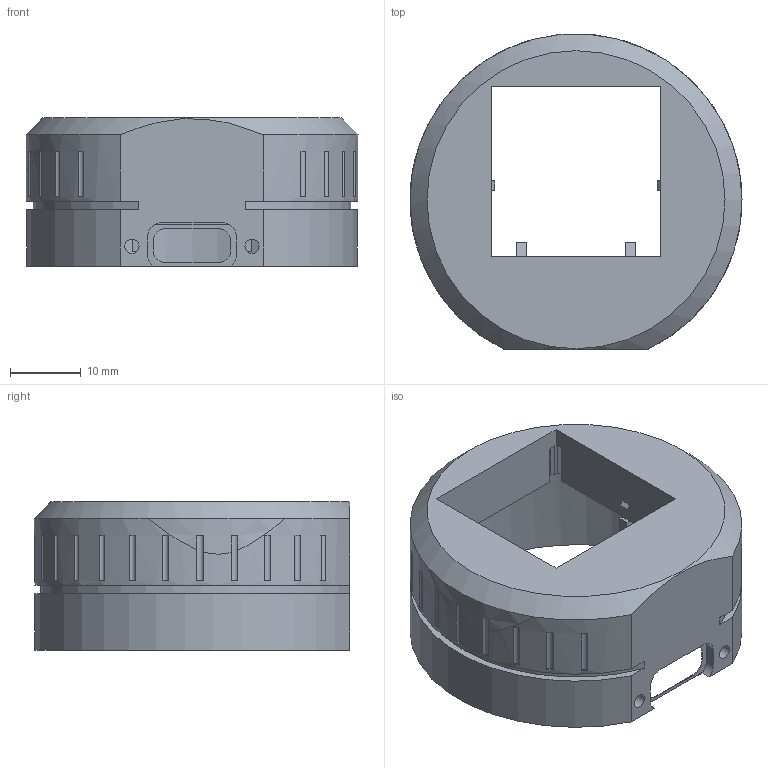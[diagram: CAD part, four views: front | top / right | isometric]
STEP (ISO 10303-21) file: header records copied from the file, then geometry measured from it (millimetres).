
FILE_DESCRIPTION(('Open CASCADE Model'),'2;1');
FILE_NAME('Open CASCADE Shape Model','2026-09-30T21:50:23',('Author'),( 'Open CASCADE'),'Open CASCADE STEP processor 7.9','Open CASCADE 7.9' ,'Unknown');
FILE_SCHEMA(('AUTOMOTIVE_DESIGN { 1 0 10303 214 1 1 1 1 }'));
Length unit declared in the file: millimetre
Products named in the file (1): Open CASCADE STEP translator 7.9 1
Bounding box: 47 x 44.63 x 21 mm (x, y, z)
Volume: 10536.5 mm3; surface area: 10277.3 mm2
Topology: 1 solids, 1 shells, 244 faces, 633 edges, 421 vertices
Faces by surface type: plane 194, cylinder 47, cone 3
Full cylindrical faces by diameter (mm): 2 x2, 3.4 x4
Entity records: 16943 total; most frequent: CARTESIAN_POINT 4906, DIRECTION 2043, ORIENTED_EDGE 1266, PCURVE 1266, DEFINITIONAL_REPRESENTATION 1266, LINE 1133, VECTOR 1133, EDGE_CURVE 633
